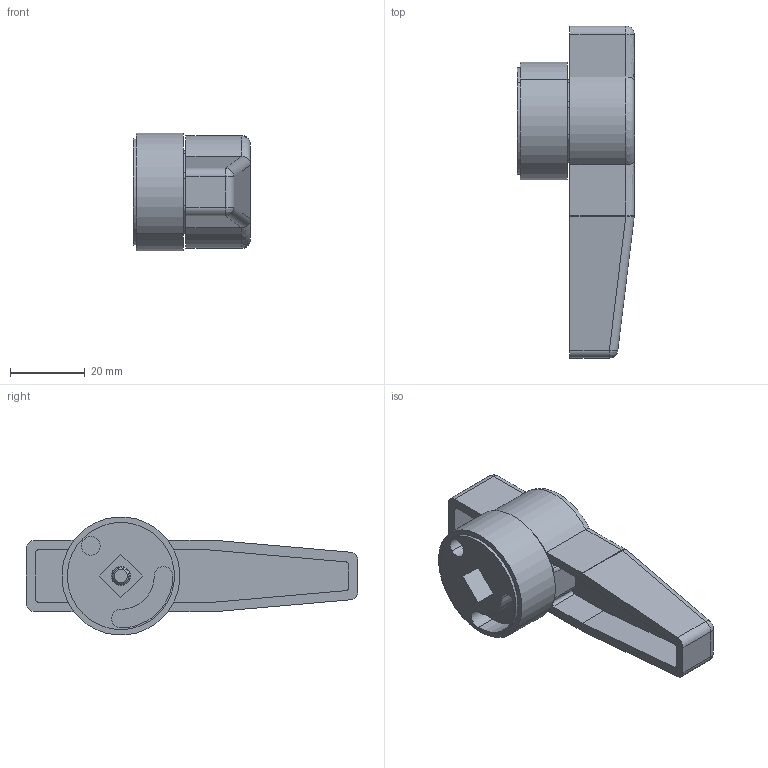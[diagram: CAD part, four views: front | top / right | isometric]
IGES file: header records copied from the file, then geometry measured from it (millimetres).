
Start section:  PTC IGES file: ilc62700408_long.igs
Global section: file name: ilc62700408_long.igs; native system: Pro/ENGINEER by Parametric Technology Corporation; preprocessor: 2007460; author: jdw; organization: Unknown; date: 20130619.082907; units: inch
Bounding box: 31.5 x 88.9 x 31.5 mm (x, y, z)
Surface area: 13921.4 mm2 (no closed solid volume)
Topology: 0 solids, 0 shells, 292 faces, 1494 edges, 1494 vertices
Faces by surface type: bspline 205, revolution 87
